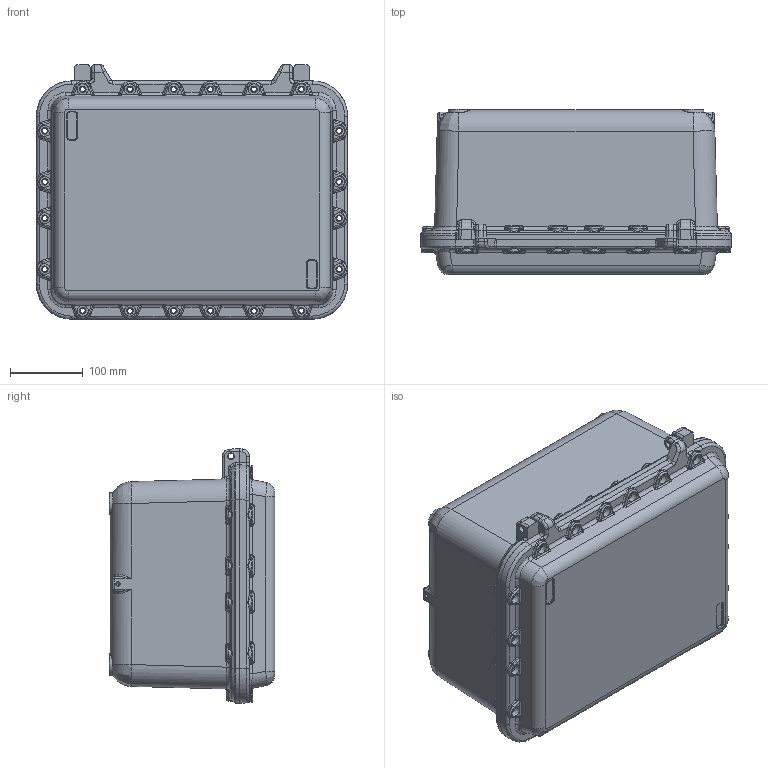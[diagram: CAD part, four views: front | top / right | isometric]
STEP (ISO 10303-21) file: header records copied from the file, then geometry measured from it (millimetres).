
FILE_DESCRIPTION(('STEP AP203'), '1');
FILE_NAME('Ñáîðêà_Êîðïóñ Â04-01', '', ('UNSPECIFIED'), ('UNSPECIFIED'), 'C3D Converter', 'C3D Toolkit', '');
FILE_SCHEMA(('CONFIG_CONTROL_DESIGN'));
Length unit declared in the file: millimetre
Products named in the file (3): В04-01; В04-02
Assembly tree (2 placements, depth 2):
  (unnamed)
    В04-01
    В04-02
Bounding box: 427 x 227 x 349.05 mm (x, y, z)
Volume: 7870441.2 mm3; surface area: 1045531 mm2
Topology: 2 solids, 2 shells, 2107 faces, 5218 edges, 3145 vertices
Faces by surface type: cylinder 556, cone 537, bspline 470, plane 380, torus 164
Full cylindrical faces by diameter (mm): 4.917 x8, 6.647 x20, 8 x2, 8.376 x4, 9 x42, 15 x20
Entity records: 169299 total; most frequent: CARTESIAN_POINT 105731, ORIENTED_EDGE 10074, DIRECTION 8992, EDGE_CURVE 5037, AXIS2_PLACEMENT_3D 3656, VERTEX_POINT 3132, EDGE_LOOP 2393, FACE_BOUND 2149
